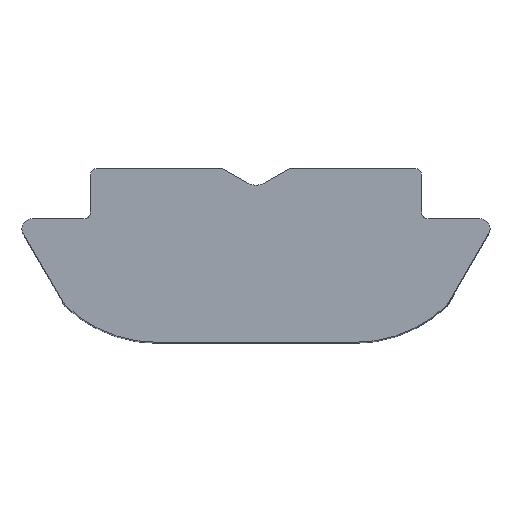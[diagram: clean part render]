
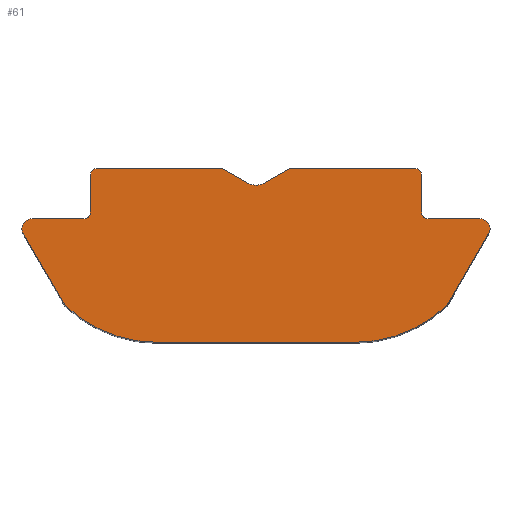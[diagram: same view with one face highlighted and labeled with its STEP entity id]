
A CAD part, top view. The second image highlights one B-rep face of the part: STEP entity #61.
In plain terms, the highlighted planar face has unit normal (0, 0, 1).
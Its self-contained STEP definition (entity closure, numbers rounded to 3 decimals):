
#61=ADVANCED_FACE('NONE',(#142),#143,.F.);
#142=FACE_OUTER_BOUND('',#241,.T.);
#143=PLANE('',#242);
#241=EDGE_LOOP('',(#351,#352,#353,#354,#355,#356,#357,#358,#359,#360,#361,#362,#363,#364,#365,#366,#367,#368,#369,#370,#371,#372,#373));
#242=AXIS2_PLACEMENT_3D('',#374,#375,#376);
#351=ORIENTED_EDGE('',*,*,#627,.T.);
#352=ORIENTED_EDGE('',*,*,#637,.T.);
#353=ORIENTED_EDGE('',*,*,#638,.T.);
#354=ORIENTED_EDGE('',*,*,#639,.T.);
#355=ORIENTED_EDGE('',*,*,#640,.T.);
#356=ORIENTED_EDGE('',*,*,#641,.T.);
#357=ORIENTED_EDGE('',*,*,#642,.T.);
#358=ORIENTED_EDGE('',*,*,#643,.T.);
#359=ORIENTED_EDGE('',*,*,#644,.T.);
#360=ORIENTED_EDGE('',*,*,#645,.T.);
#361=ORIENTED_EDGE('',*,*,#646,.T.);
#362=ORIENTED_EDGE('',*,*,#635,.T.);
#363=ORIENTED_EDGE('',*,*,#647,.T.);
#364=ORIENTED_EDGE('',*,*,#622,.T.);
#365=ORIENTED_EDGE('',*,*,#648,.T.);
#366=ORIENTED_EDGE('',*,*,#649,.T.);
#367=ORIENTED_EDGE('',*,*,#650,.T.);
#368=ORIENTED_EDGE('',*,*,#651,.T.);
#369=ORIENTED_EDGE('',*,*,#652,.T.);
#370=ORIENTED_EDGE('',*,*,#653,.T.);
#371=ORIENTED_EDGE('',*,*,#654,.T.);
#372=ORIENTED_EDGE('',*,*,#655,.T.);
#373=ORIENTED_EDGE('',*,*,#656,.T.);
#374=CARTESIAN_POINT('',(7.182,-2.158,9.5));
#375=DIRECTION('',(-0.0,-0.0,-1.0));
#376=DIRECTION('',(0.0,-1.0,0.0));
#622=EDGE_CURVE('NONE',#743,#741,#744,.T.);
#627=EDGE_CURVE('NONE',#752,#750,#753,.T.);
#635=EDGE_CURVE('NONE',#756,#765,#767,.T.);
#637=EDGE_CURVE('NONE',#750,#769,#770,.T.);
#638=EDGE_CURVE('NONE',#769,#771,#772,.T.);
#639=EDGE_CURVE('NONE',#771,#773,#774,.T.);
#640=EDGE_CURVE('NONE',#773,#775,#776,.T.);
#641=EDGE_CURVE('NONE',#775,#777,#778,.T.);
#642=EDGE_CURVE('NONE',#777,#779,#780,.T.);
#643=EDGE_CURVE('NONE',#779,#781,#782,.T.);
#644=EDGE_CURVE('NONE',#781,#783,#784,.T.);
#645=EDGE_CURVE('NONE',#783,#785,#786,.T.);
#646=EDGE_CURVE('NONE',#785,#756,#787,.T.);
#647=EDGE_CURVE('NONE',#765,#743,#788,.T.);
#648=EDGE_CURVE('NONE',#741,#789,#790,.T.);
#649=EDGE_CURVE('NONE',#789,#791,#792,.T.);
#650=EDGE_CURVE('NONE',#791,#793,#794,.T.);
#651=EDGE_CURVE('NONE',#793,#795,#796,.T.);
#652=EDGE_CURVE('NONE',#795,#797,#798,.T.);
#653=EDGE_CURVE('NONE',#797,#799,#800,.T.);
#654=EDGE_CURVE('NONE',#799,#801,#802,.T.);
#655=EDGE_CURVE('NONE',#801,#803,#804,.T.);
#656=EDGE_CURVE('NONE',#803,#752,#805,.T.);
#741=VERTEX_POINT('NONE',#918);
#743=VERTEX_POINT('NONE',#921);
#744=LINE('',#922,#923);
#750=VERTEX_POINT('NONE',#930);
#752=VERTEX_POINT('NONE',#933);
#753=CIRCLE('',#934,0.3);
#756=VERTEX_POINT('NONE',#938);
#765=VERTEX_POINT('NONE',#950);
#767=LINE('',#953,#954);
#769=VERTEX_POINT('',#956);
#770=CIRCLE('',#957,0.3);
#771=VERTEX_POINT('NONE',#958);
#772=CIRCLE('',#959,0.3);
#773=VERTEX_POINT('NONE',#960);
#774=LINE('',#961,#962);
#775=VERTEX_POINT('NONE',#963);
#776=CIRCLE('',#964,0.2);
#777=VERTEX_POINT('NONE',#965);
#778=LINE('',#966,#967);
#779=VERTEX_POINT('NONE',#968);
#780=CIRCLE('',#969,0.2);
#781=VERTEX_POINT('NONE',#970);
#782=LINE('',#971,#972);
#783=VERTEX_POINT('NONE',#973);
#784=LINE('',#974,#975);
#785=VERTEX_POINT('NONE',#976);
#786=CIRCLE('',#977,0.5);
#787=LINE('',#978,#979);
#788=CIRCLE('',#980,0.2);
#789=VERTEX_POINT('NONE',#981);
#790=CIRCLE('',#982,0.2);
#791=VERTEX_POINT('NONE',#983);
#792=LINE('',#984,#985);
#793=VERTEX_POINT('NONE',#986);
#794=CIRCLE('',#987,0.3);
#795=VERTEX_POINT('NONE',#988);
#796=CIRCLE('',#989,0.3);
#797=VERTEX_POINT('NONE',#990);
#798=LINE('',#991,#992);
#799=VERTEX_POINT('NONE',#993);
#800=CIRCLE('',#994,4.0);
#801=VERTEX_POINT('NONE',#995);
#802=LINE('',#996,#997);
#803=VERTEX_POINT('NONE',#998);
#804=CIRCLE('',#999,4.0);
#805=LINE('',#1000,#1001);
#918=CARTESIAN_POINT('',(-4.95,-1.3,9.5));
#921=CARTESIAN_POINT('',(-4.95,-0.2,9.5));
#922=CARTESIAN_POINT('',(-4.95,-0.2,9.5));
#923=VECTOR('',#1194,1000.0);
#930=CARTESIAN_POINT('',(6.941,-1.979,9.5));
#933=CARTESIAN_POINT('',(6.922,-2.008,9.5));
#934=AXIS2_PLACEMENT_3D('',#1200,#1201,#1202);
#938=CARTESIAN_POINT('',(-1.,0.0,9.5));
#950=CARTESIAN_POINT('',(-4.75,0.,9.5));
#953=CARTESIAN_POINT('',(-1.,0.0,9.5));
#954=VECTOR('',#1211,1000.0);
#956=CARTESIAN_POINT('',(7.0,-1.8,9.5));
#957=AXIS2_PLACEMENT_3D('',#1212,#1213,#1214);
#958=CARTESIAN_POINT('',(6.7,-1.5,9.5));
#959=AXIS2_PLACEMENT_3D('',#1215,#1216,#1217);
#960=CARTESIAN_POINT('',(5.15,-1.5,9.5));
#961=CARTESIAN_POINT('',(5.15,-1.5,9.5));
#962=VECTOR('',#1218,1000.0);
#963=CARTESIAN_POINT('',(4.95,-1.3,9.5));
#964=AXIS2_PLACEMENT_3D('',#1219,#1220,#1221);
#965=CARTESIAN_POINT('',(4.95,-0.2,9.5));
#966=CARTESIAN_POINT('',(4.95,-0.2,9.5));
#967=VECTOR('',#1222,1000.0);
#968=CARTESIAN_POINT('',(4.75,0.,9.5));
#969=AXIS2_PLACEMENT_3D('',#1223,#1224,#1225);
#970=CARTESIAN_POINT('',(1.0,0.,9.5));
#971=CARTESIAN_POINT('',(4.75,0.,9.5));
#972=VECTOR('',#1226,1000.0);
#973=CARTESIAN_POINT('',(0.25,-0.433,9.5));
#974=CARTESIAN_POINT('',(1.0,0.,9.5));
#975=VECTOR('',#1227,1000.0);
#976=CARTESIAN_POINT('',(-0.25,-0.433,9.5));
#977=AXIS2_PLACEMENT_3D('',#1228,#1229,#1230);
#978=CARTESIAN_POINT('',(-1.,0.0,9.5));
#979=VECTOR('',#1231,1000.0);
#980=AXIS2_PLACEMENT_3D('',#1232,#1233,#1234);
#981=CARTESIAN_POINT('',(-5.15,-1.5,9.5));
#982=AXIS2_PLACEMENT_3D('',#1235,#1236,#1237);
#983=CARTESIAN_POINT('',(-6.7,-1.5,9.5));
#984=CARTESIAN_POINT('',(-5.15,-1.5,9.5));
#985=VECTOR('',#1238,1000.0);
#986=CARTESIAN_POINT('',(-7.0,-1.8,9.5));
#987=AXIS2_PLACEMENT_3D('',#1239,#1240,#1241);
#988=CARTESIAN_POINT('',(-6.932,-1.99,9.5));
#989=AXIS2_PLACEMENT_3D('',#1242,#1243,#1244);
#990=CARTESIAN_POINT('',(-5.725,-4.081,9.5));
#991=CARTESIAN_POINT('',(-6.932,-1.99,9.5));
#992=VECTOR('',#1245,1000.0);
#993=CARTESIAN_POINT('',(-2.95,-5.2,9.5));
#994=AXIS2_PLACEMENT_3D('',#1246,#1247,#1248);
#995=CARTESIAN_POINT('',(2.95,-5.2,9.5));
#996=CARTESIAN_POINT('',(-2.95,-5.2,9.5));
#997=VECTOR('',#1249,1000.0);
#998=CARTESIAN_POINT('',(5.725,-4.081,9.5));
#999=AXIS2_PLACEMENT_3D('',#1250,#1251,#1252);
#1000=CARTESIAN_POINT('',(6.922,-2.008,9.5));
#1001=VECTOR('',#1253,1000.0);
#1194=DIRECTION('',(0.0,-1.0,0.0));
#1200=CARTESIAN_POINT('',(7.182,-2.158,9.5));
#1201=DIRECTION('',(0.0,0.0,-1.0));
#1202=DIRECTION('',(-1.0,0.0,0.0));
#1211=DIRECTION('',(-1.0,0.,0.0));
#1212=CARTESIAN_POINT('',(6.7,-1.8,9.5));
#1213=DIRECTION('',(0.0,0.0,1.0));
#1214=DIRECTION('',(-1.0,0.0,0.0));
#1215=CARTESIAN_POINT('',(6.7,-1.8,9.5));
#1216=DIRECTION('',(0.0,0.0,1.0));
#1217=DIRECTION('',(-1.0,0.0,0.0));
#1218=DIRECTION('',(-1.0,-0.0,-0.0));
#1219=CARTESIAN_POINT('',(5.15,-1.3,9.5));
#1220=DIRECTION('',(0.0,0.0,-1.0));
#1221=DIRECTION('',(1.0,0.0,0.0));
#1222=DIRECTION('',(0.,1.0,-0.0));
#1223=CARTESIAN_POINT('',(4.75,-0.2,9.5));
#1224=DIRECTION('',(0.0,0.0,1.0));
#1225=DIRECTION('',(1.0,0.0,0.0));
#1226=DIRECTION('',(-1.0,0.,0.0));
#1227=DIRECTION('',(-0.866,-0.5,0.0));
#1228=CARTESIAN_POINT('',(0.,0.,9.5));
#1229=DIRECTION('',(0.0,0.0,-1.0));
#1230=DIRECTION('',(1.0,0.0,0.0));
#1231=DIRECTION('',(-0.866,0.5,-0.0));
#1232=CARTESIAN_POINT('',(-4.75,-0.2,9.5));
#1233=DIRECTION('',(0.0,0.0,1.0));
#1234=DIRECTION('',(1.0,0.0,0.0));
#1235=CARTESIAN_POINT('',(-5.15,-1.3,9.5));
#1236=DIRECTION('',(0.0,0.0,-1.0));
#1237=DIRECTION('',(-1.0,0.0,0.0));
#1238=DIRECTION('',(-1.0,0.,0.0));
#1239=CARTESIAN_POINT('',(-6.7,-1.8,9.5));
#1240=DIRECTION('',(0.0,0.0,1.0));
#1241=DIRECTION('',(1.0,0.0,0.0));
#1242=CARTESIAN_POINT('',(-6.7,-1.8,9.5));
#1243=DIRECTION('',(0.0,0.0,1.0));
#1244=DIRECTION('',(1.0,0.0,0.0));
#1245=DIRECTION('',(0.5,-0.866,0.0));
#1246=CARTESIAN_POINT('',(-2.95,-1.2,9.5));
#1247=DIRECTION('',(0.0,0.0,1.0));
#1248=DIRECTION('',(1.0,0.0,0.0));
#1249=DIRECTION('',(1.0,0.,0.0));
#1250=CARTESIAN_POINT('',(2.95,-1.2,9.5));
#1251=DIRECTION('',(0.0,0.0,1.0));
#1252=DIRECTION('',(-1.0,0.0,0.0));
#1253=DIRECTION('',(0.5,0.866,-0.0));
